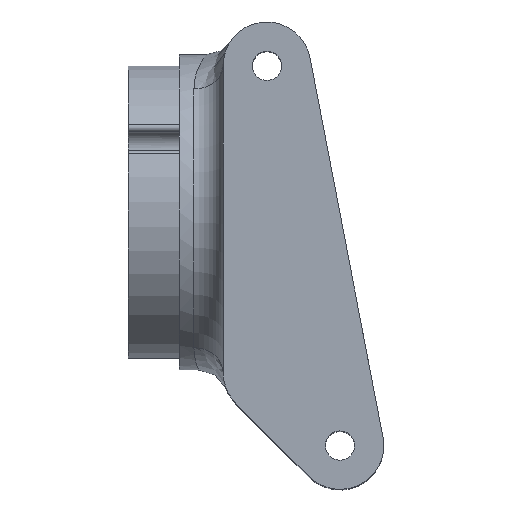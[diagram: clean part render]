
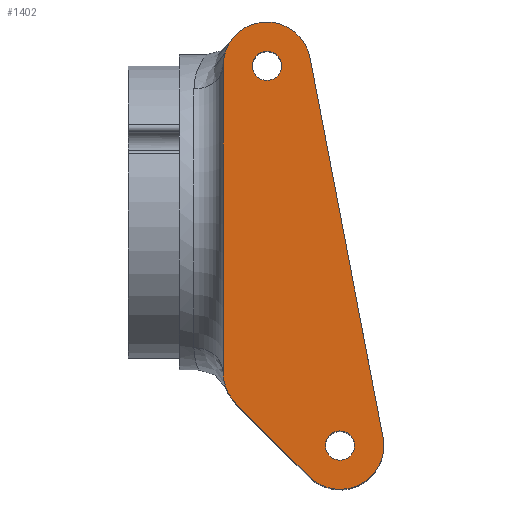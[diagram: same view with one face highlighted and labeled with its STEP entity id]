
A CAD part, top view. The second image highlights one B-rep face of the part: STEP entity #1402.
In plain terms, the highlighted planar face has unit normal (0, 0, 1).
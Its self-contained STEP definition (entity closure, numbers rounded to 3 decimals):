
#61=CIRCLE('',#1535,6.);
#65=CIRCLE('',#1541,6.);
#67=CIRCLE('',#1545,6.);
#68=CIRCLE('',#1547,2.005);
#70=CIRCLE('',#1550,2.005);
#336=ORIENTED_EDGE('',*,*,#695,.T.);
#337=ORIENTED_EDGE('',*,*,#708,.T.);
#338=ORIENTED_EDGE('',*,*,#711,.T.);
#339=ORIENTED_EDGE('',*,*,#713,.T.);
#340=ORIENTED_EDGE('',*,*,#572,.T.);
#341=ORIENTED_EDGE('',*,*,#701,.T.);
#342=ORIENTED_EDGE('',*,*,#714,.F.);
#343=ORIENTED_EDGE('',*,*,#716,.F.);
#572=EDGE_CURVE('',#783,#782,#923,.T.);
#695=EDGE_CURVE('',#873,#876,#997,.T.);
#701=EDGE_CURVE('',#782,#873,#61,.T.);
#708=EDGE_CURVE('',#876,#884,#65,.T.);
#711=EDGE_CURVE('',#884,#886,#1005,.T.);
#713=EDGE_CURVE('',#886,#783,#67,.T.);
#714=EDGE_CURVE('',#887,#887,#68,.T.);
#716=EDGE_CURVE('',#889,#889,#70,.T.);
#782=VERTEX_POINT('',#2074);
#783=VERTEX_POINT('',#2076);
#873=VERTEX_POINT('',#2312);
#876=VERTEX_POINT('',#2317);
#884=VERTEX_POINT('',#2354);
#886=VERTEX_POINT('',#2360);
#887=VERTEX_POINT('',#2367);
#889=VERTEX_POINT('',#2372);
#923=LINE('',#2075,#1035);
#997=LINE('',#2318,#1109);
#1005=LINE('',#2361,#1117);
#1035=VECTOR('',#1628,1000.);
#1109=VECTOR('',#1852,1000.);
#1117=VECTOR('',#1882,1000.);
#1185=EDGE_LOOP('',(#336,#337,#338,#339,#340,#341));
#1186=EDGE_LOOP('',(#342));
#1187=EDGE_LOOP('',(#343));
#1278=FACE_BOUND('',#1185,.T.);
#1279=FACE_BOUND('',#1186,.T.);
#1280=FACE_BOUND('',#1187,.T.);
#1352=PLANE('',#1552);
#1402=ADVANCED_FACE('',(#1278,#1279,#1280),#1352,.T.);
#1535=AXIS2_PLACEMENT_3D('',#2337,#1862,#1863);
#1541=AXIS2_PLACEMENT_3D('',#2355,#1876,#1877);
#1545=AXIS2_PLACEMENT_3D('',#2364,#1887,#1888);
#1547=AXIS2_PLACEMENT_3D('',#2366,#1891,#1892);
#1550=AXIS2_PLACEMENT_3D('',#2371,#1897,#1898);
#1552=AXIS2_PLACEMENT_3D('',#2375,#1901,#1902);
#1628=DIRECTION('',(-0.189,0.982,0.));
#1852=DIRECTION('',(0.,-1.,0.));
#1862=DIRECTION('',(0.,0.,1.));
#1863=DIRECTION('',(1.,0.,0.));
#1876=DIRECTION('',(0.,0.,1.));
#1877=DIRECTION('',(1.,0.,0.));
#1882=DIRECTION('',(0.707,-0.707,0.));
#1887=DIRECTION('',(0.,0.,1.));
#1888=DIRECTION('',(1.,0.,0.));
#1891=DIRECTION('',(0.,0.,1.));
#1892=DIRECTION('',(0.,-1.,0.));
#1897=DIRECTION('',(0.,0.,1.));
#1898=DIRECTION('',(0.,-1.,0.));
#1901=DIRECTION('',(0.,0.,1.));
#1902=DIRECTION('',(1.,0.,0.));
#2074=CARTESIAN_POINT('',(5.892,1.133,55.1));
#2075=CARTESIAN_POINT('',(15.892,-50.867,55.1));
#2076=CARTESIAN_POINT('',(15.892,-50.867,55.1));
#2312=CARTESIAN_POINT('',(-6.,0.,55.1));
#2317=CARTESIAN_POINT('',(-6.,-42.,55.1));
#2318=CARTESIAN_POINT('',(-6.,0.,55.1));
#2337=CARTESIAN_POINT('',(0.,0.,55.1));
#2354=CARTESIAN_POINT('',(-4.243,-46.243,55.1));
#2355=CARTESIAN_POINT('',(0.,-42.,55.1));
#2360=CARTESIAN_POINT('',(5.757,-56.243,55.1));
#2361=CARTESIAN_POINT('',(-4.243,-46.243,55.1));
#2364=CARTESIAN_POINT('',(10.,-52.,55.1));
#2366=CARTESIAN_POINT('',(0.,0.,55.1));
#2367=CARTESIAN_POINT('',(0.,-2.005,55.1));
#2371=CARTESIAN_POINT('',(10.,-52.,55.1));
#2372=CARTESIAN_POINT('',(10.,-54.005,55.1));
#2375=CARTESIAN_POINT('',(0.,-42.,55.1));
